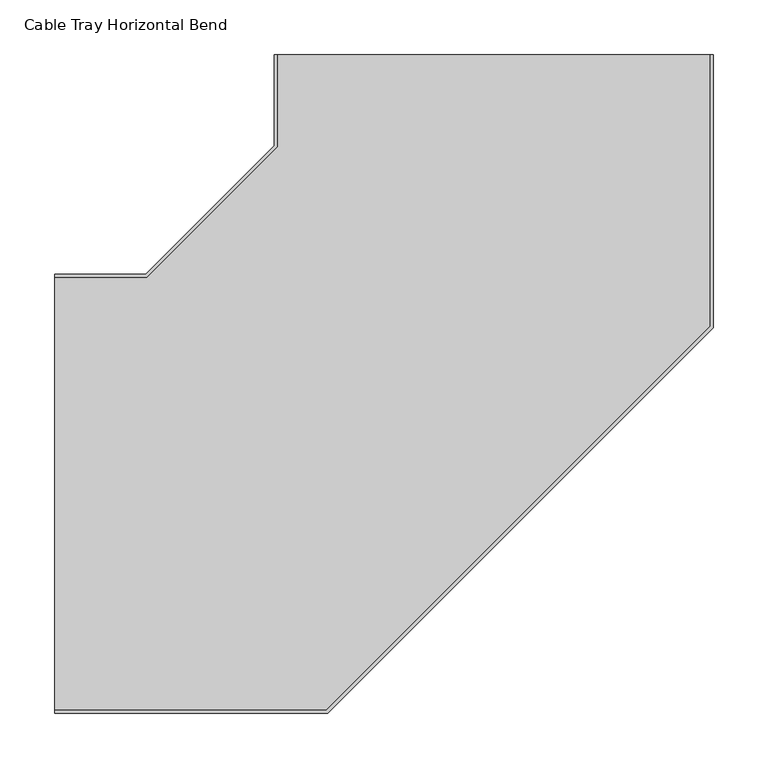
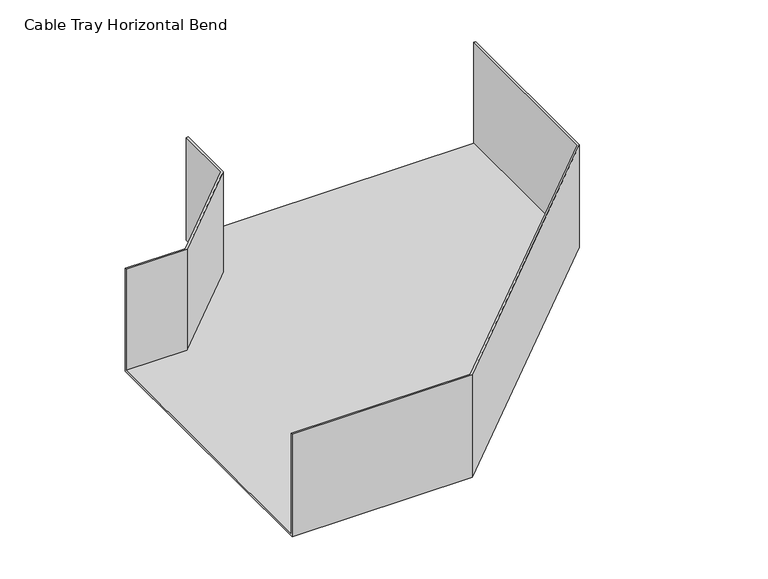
"""IFC4 building model written with IfcOpenShell, lengths in millimetres: cable carrier fitting geometry, Cable Tray Horizontal Bend : ELEC_ELV_TKG_N2402."""

from ifc_helpers import new_model, si_unit, origin, place, context, project, spatial, faceted_brep, source, transform, mapped, element, save


def cable_tray_horizontal_bend_f58777bf(model_context):
    return source(origin(), model_context, "Body", "Brep", [
        faceted_brep([(-400.0, -200.0, -75.0), (-400.0, -200.0, 75.0), (-400.0, -197.46, 75.0), (-400.0, -197.46, -72.46), (-400.0, 197.46, -72.46), (-400.0, 197.46, 75.0), (-400.0, 200.0, 75.0), (-400.0, 200.0, -75.0), (200.0, 400.0, -75.0), (-200.0, 400.0, -75.0), (-200.0, 400.0, 75.0), (-197.46, 400.0, 75.0), (-197.46, 400.0, -72.46), (197.46, 400.0, -72.46), (197.46, 400.0, 75.0), (200.0, 400.0, 75.0), (-151.4718626, -200.0, -75.0), (-151.4718626, -200.0, 75.0), (200.0, 151.4718626, 75.0), (197.46, 152.523965, 75.0), (-152.523965, -197.46, 75.0), (-152.523965, -197.46, -72.46), (197.46, 152.523965, -72.46), (-197.46, 316.1051851, -72.46), (-316.1051851, 197.46, -72.46), (-316.1051851, 197.46, 75.0), (-197.46, 316.1051851, 75.0), (-200.0, 317.1572875, 75.0), (-317.1572875, 200.0, 75.0), (-317.1572875, 200.0, -75.0), (-200.0, 317.1572875, -75.0), (200.0, 151.4718626, -75.0)], [[[0, 1, 2, 3, 4, 5, 6, 7]], [[8, 9, 10, 11, 12, 13, 14, 15]], [[1, 0, 16, 17]], [[2, 1, 17, 18, 15, 14, 19, 20]], [[3, 2, 20, 21]], [[4, 3, 21, 22, 13, 12, 23, 24]], [[5, 4, 24, 25]], [[6, 5, 25, 26, 11, 10, 27, 28]], [[7, 6, 28, 29]], [[0, 7, 29, 30, 9, 8, 31, 16]], [[17, 16, 31, 18]], [[21, 20, 19, 22]], [[25, 24, 23, 26]], [[29, 28, 27, 30]], [[18, 31, 8, 15]], [[22, 19, 14, 13]], [[26, 23, 12, 11]], [[30, 27, 10, 9]]]),
    ])


if __name__ == "__main__":
    model = new_model("IFC4")
    model_context = context("Model", 3, world=origin())
    ifc_project = project(units=[si_unit("LENGTHUNIT", "METRE", prefix="MILLI")], contexts=[model_context])
    site = spatial("IfcSite", under=ifc_project)
    building = spatial("IfcBuilding", under=site)
    placement = place(None, origin())
    cable_tray_horizontal_bend_shape = cable_tray_horizontal_bend_f58777bf(model_context)
    element("IfcCableCarrierFitting", 1, ObjectType="Cable Tray Horizontal Bend : ELEC_ELV_TKG_N2402", at=placement, inside=building, context=model_context, shape_type="MappedRepresentation", body=[
        mapped(cable_tray_horizontal_bend_shape, transform((0.0, 0.0, 0.0), x_axis=(1.0, 0.0, 0.0), y_axis=(0.0, 1.0, 0.0), z_axis=(0.0, 0.0, 1.0))),
    ])
    save(model, "model.ifc")
